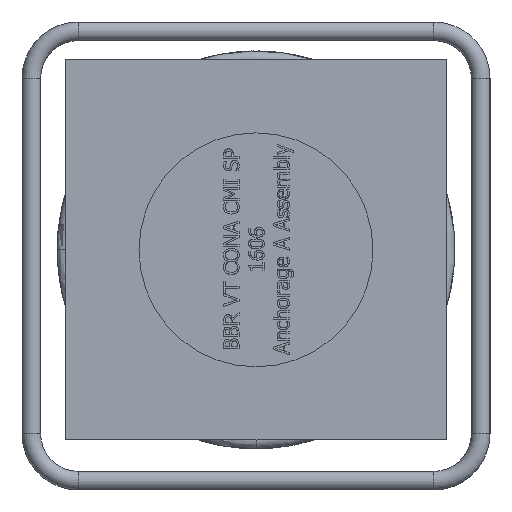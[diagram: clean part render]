
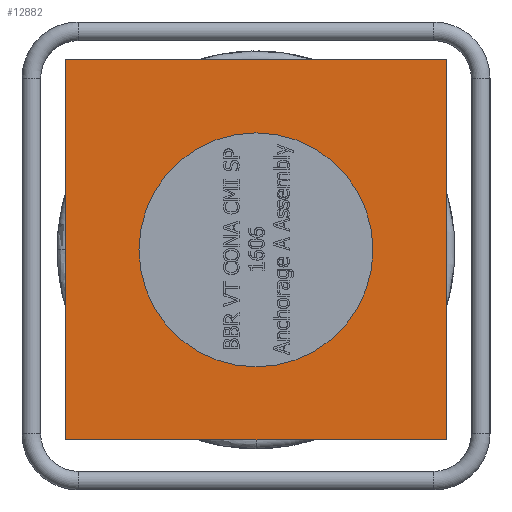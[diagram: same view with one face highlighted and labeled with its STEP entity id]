
A CAD part, left-side view. The second image highlights one B-rep face of the part: STEP entity #12882.
In plain terms, the highlighted planar face has unit normal (-1, 0, 0).
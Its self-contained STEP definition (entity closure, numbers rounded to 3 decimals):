
#1966=LINE('',#26199,#3023);
#1970=LINE('',#26206,#3027);
#1973=LINE('',#26211,#3030);
#1976=LINE('',#26215,#3033);
#3023=VECTOR('',#15274,325.);
#3027=VECTOR('',#15280,325.);
#3030=VECTOR('',#15285,325.);
#3033=VECTOR('',#15290,325.);
#3347=PLANE('',#13339);
#3508=FACE_BOUND('',#4993,.T.);
#4191=FACE_OUTER_BOUND('',#4992,.T.);
#4992=EDGE_LOOP('',(#11456,#11457,#11458,#11459));
#4993=EDGE_LOOP('',(#11460));
#5061=CIRCLE('',#13301,100.);
#6230=VERTEX_POINT('',#22727);
#6255=VERTEX_POINT('',#26197);
#6256=VERTEX_POINT('',#26198);
#6258=VERTEX_POINT('',#26205);
#6259=VERTEX_POINT('',#26210);
#7958=EDGE_CURVE('',#6230,#6230,#5061,.T.);
#7985=EDGE_CURVE('',#6255,#6256,#1966,.T.);
#7989=EDGE_CURVE('',#6256,#6258,#1970,.T.);
#7992=EDGE_CURVE('',#6258,#6259,#1973,.T.);
#7995=EDGE_CURVE('',#6259,#6255,#1976,.T.);
#11456=ORIENTED_EDGE('',*,*,#7995,.T.);
#11457=ORIENTED_EDGE('',*,*,#7985,.T.);
#11458=ORIENTED_EDGE('',*,*,#7989,.T.);
#11459=ORIENTED_EDGE('',*,*,#7992,.T.);
#11460=ORIENTED_EDGE('',*,*,#7958,.T.);
#12882=ADVANCED_FACE('',(#4191,#3508),#3347,.F.);
#13301=AXIS2_PLACEMENT_3D('',#22728,#15198,#15199);
#13339=AXIS2_PLACEMENT_3D('',#26217,#15292,#15293);
#15198=DIRECTION('center_axis',(1.,0.,0.));
#15199=DIRECTION('ref_axis',(0.,0.,
1.));
#15274=DIRECTION('',(0.,0.,-1.));
#15280=DIRECTION('',(0.,-1.,0.));
#15285=DIRECTION('',(0.,0.,1.));
#15290=DIRECTION('',(0.,1.,0.));
#15292=DIRECTION('center_axis',(1.,0.,0.));
#15293=DIRECTION('ref_axis',(0.,0.,1.));
#22727=CARTESIAN_POINT('',(-112.151,-100.,5.253));
#22728=CARTESIAN_POINT('Origin',(-112.151,0.,
5.253));
#26197=CARTESIAN_POINT('',(-112.151,162.5,167.753));
#26198=CARTESIAN_POINT('',(-112.151,162.5,-157.247));
#26199=CARTESIAN_POINT('',(-112.151,162.5,167.753));
#26205=CARTESIAN_POINT('',(-112.151,-162.5,-157.247));
#26206=CARTESIAN_POINT('',(-112.151,162.5,-157.247));
#26210=CARTESIAN_POINT('',(-112.151,-162.5,167.753));
#26211=CARTESIAN_POINT('',(-112.151,-162.5,-157.247));
#26215=CARTESIAN_POINT('',(-112.151,-162.5,167.753));
#26217=CARTESIAN_POINT('Origin',(-112.151,0.,5.253));
